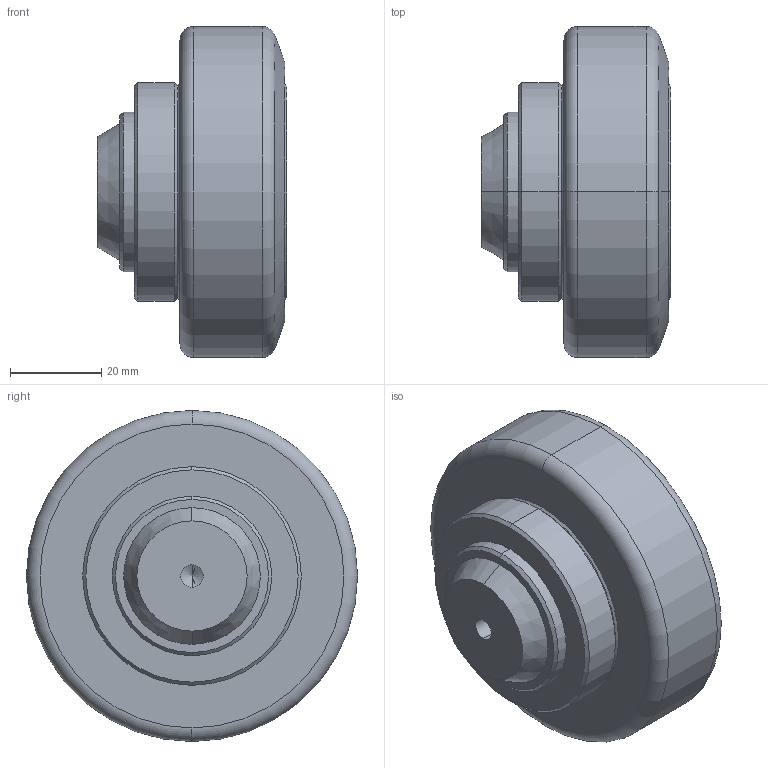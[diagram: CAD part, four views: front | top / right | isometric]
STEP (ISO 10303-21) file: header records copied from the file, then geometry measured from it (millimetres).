
FILE_DESCRIPTION (( 'STEP AP214' ), '1' );
FILE_NAME ('3D2.0363-PR.STEP', '2013-12-17T05:56:10', ( 'usuario' ), ( 'Hewlett-Packard Company' ), 'SwSTEP 2.0', 'SolidWorks 2017', '' );
FILE_SCHEMA (( 'AUTOMOTIVE_DESIGN' ));
Length unit declared in the file: millimetre
Products named in the file (1): 3D2.0363-PR
Bounding box: 41.7 x 72.72 x 72.72 mm (x, y, z)
Volume: 117127.5 mm3; surface area: 14887.5 mm2
Topology: 1 solids, 1 shells, 35 faces, 70 edges, 41 vertices
Faces by surface type: cone 16, cylinder 8, plane 7, torus 4
Entity records: 936 total; most frequent: DIRECTION 184, CARTESIAN_POINT 145, ORIENTED_EDGE 136, AXIS2_PLACEMENT_3D 80, EDGE_CURVE 68, CIRCLE 44, EDGE_LOOP 41, VERTEX_POINT 41
